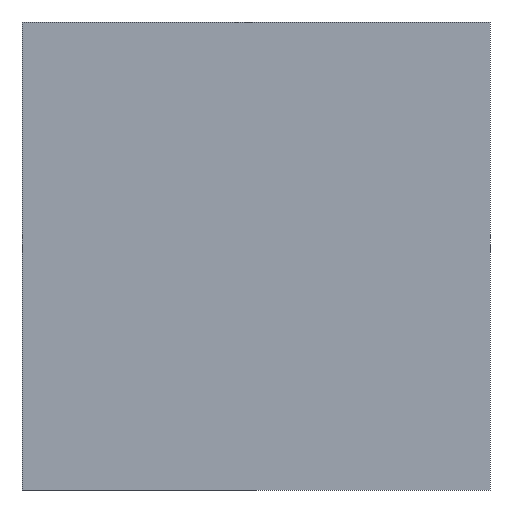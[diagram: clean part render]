
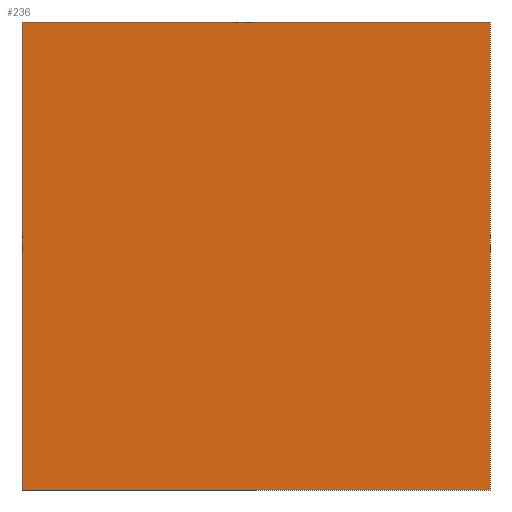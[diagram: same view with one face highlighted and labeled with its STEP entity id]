
A CAD part, front view. The second image highlights one B-rep face of the part: STEP entity #236.
In plain terms, the highlighted planar face has unit normal (0, -1, 0).
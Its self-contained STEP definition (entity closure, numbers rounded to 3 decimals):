
#2 = EDGE_CURVE ( 'NONE', #766, #41, #12, .T. ) ;
#12 = LINE ( 'NONE', #514, #326 ) ;
#33 = VECTOR ( 'NONE', #92, 1000. ) ;
#41 = VERTEX_POINT ( 'NONE', #238 ) ;
#58 = EDGE_CURVE ( 'NONE', #41, #907, #141, .T. ) ;
#92 = DIRECTION ( 'NONE',  ( -1., 0., 0. ) ) ;
#107 = ORIENTED_EDGE ( 'NONE', *, *, #435, .T. ) ;
#141 = LINE ( 'NONE', #858, #33 ) ;
#167 = ORIENTED_EDGE ( 'NONE', *, *, #265, .T. ) ;
#210 = EDGE_LOOP ( 'NONE', ( #669, #887, #107, #167 ) ) ;
#236 = ADVANCED_FACE ( 'NONE', ( #537 ), #661, .T. ) ;
#238 = CARTESIAN_POINT ( 'NONE',  ( 0., 0., 0. ) ) ;
#265 = EDGE_CURVE ( 'NONE', #830, #907, #277, .T. ) ;
#277 = LINE ( 'NONE', #815, #364 ) ;
#326 = VECTOR ( 'NONE', #724, 1000. ) ;
#336 = CARTESIAN_POINT ( 'NONE',  ( -900., 0., 0. ) ) ;
#338 = CARTESIAN_POINT ( 'NONE',  ( 0., 0., 900. ) ) ;
#364 = VECTOR ( 'NONE', #604, 1000. ) ;
#408 = LINE ( 'NONE', #338, #665 ) ;
#435 = EDGE_CURVE ( 'NONE', #766, #830, #408, .T. ) ;
#514 = CARTESIAN_POINT ( 'NONE',  ( 0., 0., 900. ) ) ;
#527 = DIRECTION ( 'NONE',  ( 1., 0., 0. ) ) ;
#533 = CARTESIAN_POINT ( 'NONE',  ( 0., 0., 900. ) ) ;
#537 = FACE_OUTER_BOUND ( 'NONE', #210, .T. ) ;
#604 = DIRECTION ( 'NONE',  ( 0., 0., -1. ) ) ;
#614 = DIRECTION ( 'NONE',  ( -1., 0., 0. ) ) ;
#661 = PLANE ( 'NONE',  #714 ) ;
#665 = VECTOR ( 'NONE', #614, 1000. ) ;
#669 = ORIENTED_EDGE ( 'NONE', *, *, #58, .F. ) ;
#687 = CARTESIAN_POINT ( 'NONE',  ( -900., 0., 900. ) ) ;
#714 = AXIS2_PLACEMENT_3D ( 'NONE', #533, #807, #527 ) ;
#724 = DIRECTION ( 'NONE',  ( 0., 0., -1. ) ) ;
#766 = VERTEX_POINT ( 'NONE', #849 ) ;
#807 = DIRECTION ( 'NONE',  ( 0., -1., 0. ) ) ;
#815 = CARTESIAN_POINT ( 'NONE',  ( -900., 0., 900. ) ) ;
#830 = VERTEX_POINT ( 'NONE', #687 ) ;
#849 = CARTESIAN_POINT ( 'NONE',  ( 0., 0., 900. ) ) ;
#858 = CARTESIAN_POINT ( 'NONE',  ( 0., 0., 0. ) ) ;
#887 = ORIENTED_EDGE ( 'NONE', *, *, #2, .F. ) ;
#907 = VERTEX_POINT ( 'NONE', #336 ) ;
